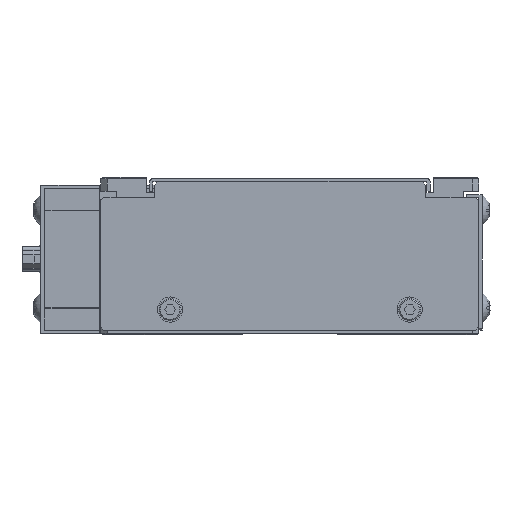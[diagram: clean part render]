
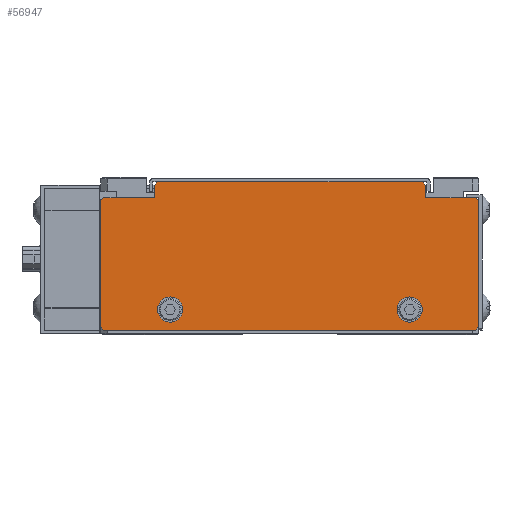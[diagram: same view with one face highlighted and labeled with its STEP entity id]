
A CAD part, front view. The second image highlights one B-rep face of the part: STEP entity #56947.
In plain terms, the highlighted planar face has unit normal (0, -1, 0).
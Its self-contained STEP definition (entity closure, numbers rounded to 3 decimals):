
#897=FACE_BOUND('',#10946,.T.);
#898=FACE_BOUND('',#10947,.T.);
#2620=CIRCLE('',#61107,4.);
#2623=CIRCLE('',#61112,4.);
#4738=PLANE('',#61176);
#7208=FACE_OUTER_BOUND('',#10945,.T.);
#10945=EDGE_LOOP('',(#40972,#40973,#40974,#40975,#40976,#40977,#40978,#40979,
#40980,#40981,#40982,#40983,#40984,#40985,#40986));
#10946=EDGE_LOOP('',(#40987));
#10947=EDGE_LOOP('',(#40988));
#15379=LINE('',#87212,#20218);
#15382=LINE('',#87217,#20221);
#15385=LINE('',#87223,#20224);
#15387=LINE('',#87227,#20226);
#15391=LINE('',#87543,#20230);
#15392=LINE('',#87547,#20231);
#15395=LINE('',#87552,#20234);
#15398=LINE('',#87562,#20237);
#15400=LINE('',#87568,#20239);
#15402=LINE('',#87593,#20241);
#15403=LINE('',#87597,#20242);
#15404=LINE('',#87598,#20243);
#15405=LINE('',#87599,#20244);
#15406=LINE('',#87600,#20245);
#15407=LINE('',#87601,#20246);
#20218=VECTOR('',#69744,4.);
#20221=VECTOR('',#69749,13.);
#20224=VECTOR('',#69754,4.);
#20226=VECTOR('',#69758,16.);
#20230=VECTOR('',#69822,1.414);
#20231=VECTOR('',#69825,1.414);
#20234=VECTOR('',#69830,1.414);
#20237=VECTOR('',#69841,1.414);
#20239=VECTOR('',#69847,40.);
#20241=VECTOR('',#69873,1.414);
#20242=VECTOR('',#69876,1.414);
#20243=VECTOR('',#69877,40.);
#20244=VECTOR('',#69878,3.);
#20245=VECTOR('',#69879,84.);
#20246=VECTOR('',#69880,118.);
#25385=VERTEX_POINT('',#87153);
#25388=VERTEX_POINT('',#87161);
#25409=VERTEX_POINT('',#87209);
#25410=VERTEX_POINT('',#87211);
#25411=VERTEX_POINT('',#87215);
#25412=VERTEX_POINT('',#87219);
#25413=VERTEX_POINT('',#87221);
#25414=VERTEX_POINT('',#87225);
#25428=VERTEX_POINT('',#87541);
#25429=VERTEX_POINT('',#87545);
#25430=VERTEX_POINT('',#87546);
#25431=VERTEX_POINT('',#87551);
#25434=VERTEX_POINT('',#87560);
#25436=VERTEX_POINT('',#87566);
#25447=VERTEX_POINT('',#87591);
#25448=VERTEX_POINT('',#87595);
#25449=VERTEX_POINT('',#87596);
#31283=EDGE_CURVE('',#25385,#25385,#2620,.T.);
#31286=EDGE_CURVE('',#25388,#25388,#2623,.T.);
#31311=EDGE_CURVE('',#25410,#25409,#15379,.T.);
#31314=EDGE_CURVE('',#25411,#25410,#15382,.T.);
#31317=EDGE_CURVE('',#25412,#25413,#15385,.T.);
#31319=EDGE_CURVE('',#25413,#25414,#15387,.T.);
#31340=EDGE_CURVE('',#25428,#25414,#15391,.T.);
#31341=EDGE_CURVE('',#25429,#25430,#15392,.T.);
#31344=EDGE_CURVE('',#25412,#25431,#15395,.T.);
#31349=EDGE_CURVE('',#25434,#25409,#15398,.T.);
#31352=EDGE_CURVE('',#25428,#25436,#15400,.T.);
#31365=EDGE_CURVE('',#25447,#25436,#15402,.T.);
#31366=EDGE_CURVE('',#25448,#25449,#15403,.T.);
#31367=EDGE_CURVE('',#25448,#25430,#15404,.T.);
#31368=EDGE_CURVE('',#25429,#25411,#15405,.T.);
#31369=EDGE_CURVE('',#25434,#25431,#15406,.T.);
#31370=EDGE_CURVE('',#25447,#25449,#15407,.T.);
#40972=ORIENTED_EDGE('',*,*,#31366,.F.);
#40973=ORIENTED_EDGE('',*,*,#31367,.T.);
#40974=ORIENTED_EDGE('',*,*,#31341,.F.);
#40975=ORIENTED_EDGE('',*,*,#31368,.T.);
#40976=ORIENTED_EDGE('',*,*,#31314,.T.);
#40977=ORIENTED_EDGE('',*,*,#31311,.T.);
#40978=ORIENTED_EDGE('',*,*,#31349,.F.);
#40979=ORIENTED_EDGE('',*,*,#31369,.T.);
#40980=ORIENTED_EDGE('',*,*,#31344,.F.);
#40981=ORIENTED_EDGE('',*,*,#31317,.T.);
#40982=ORIENTED_EDGE('',*,*,#31319,.T.);
#40983=ORIENTED_EDGE('',*,*,#31340,.F.);
#40984=ORIENTED_EDGE('',*,*,#31352,.T.);
#40985=ORIENTED_EDGE('',*,*,#31365,.F.);
#40986=ORIENTED_EDGE('',*,*,#31370,.T.);
#40987=ORIENTED_EDGE('',*,*,#31286,.T.);
#40988=ORIENTED_EDGE('',*,*,#31283,.T.);
#56947=ADVANCED_FACE('',(#7208,#897,#898),#4738,.T.);
#61107=AXIS2_PLACEMENT_3D('',#87154,#69695,#69696);
#61112=AXIS2_PLACEMENT_3D('',#87162,#69705,#69706);
#61176=AXIS2_PLACEMENT_3D('',#87594,#69874,#69875);
#69695=DIRECTION('center_axis',(0.,1.,0.));
#69696=DIRECTION('ref_axis',(-1.,0.,0.));
#69705=DIRECTION('center_axis',(0.,1.,0.));
#69706=DIRECTION('ref_axis',(-1.,0.,0.));
#69744=DIRECTION('',(0.,0.,1.));
#69749=DIRECTION('',(-1.,0.,0.));
#69754=DIRECTION('',(0.,0.,-1.));
#69758=DIRECTION('',(-1.,0.,0.));
#69822=DIRECTION('',(0.707,0.,0.707));
#69825=DIRECTION('',(0.707,0.,-0.707));
#69830=DIRECTION('',(0.707,0.,0.707));
#69841=DIRECTION('',(0.707,0.,-0.707));
#69847=DIRECTION('',(0.,0.,-1.));
#69873=DIRECTION('',(-0.707,0.,0.707));
#69874=DIRECTION('center_axis',(0.,-1.,0.));
#69875=DIRECTION('ref_axis',(0.,0.,1.));
#69876=DIRECTION('',(-0.707,0.,-0.707));
#69877=DIRECTION('',(0.,0.,1.));
#69878=DIRECTION('',(-1.,0.,0.));
#69879=DIRECTION('',(-1.,0.,0.));
#69880=DIRECTION('',(1.,0.,0.));
#87153=CARTESIAN_POINT('',(-42.,-385.,8.));
#87154=CARTESIAN_POINT('Origin',(-38.,-385.,8.));
#87161=CARTESIAN_POINT('',(34.,-385.,8.));
#87162=CARTESIAN_POINT('Origin',(38.,-385.,8.));
#87209=CARTESIAN_POINT('',(43.,-385.,47.5));
#87211=CARTESIAN_POINT('',(43.,-385.,43.5));
#87212=CARTESIAN_POINT('',(43.,-385.,36.75));
#87215=CARTESIAN_POINT('',(56.,-385.,43.5));
#87217=CARTESIAN_POINT('',(26.5,-385.,43.5));
#87219=CARTESIAN_POINT('',(-43.,-385.,47.5));
#87221=CARTESIAN_POINT('',(-43.,-385.,43.5));
#87223=CARTESIAN_POINT('',(-43.,-385.,34.25));
#87225=CARTESIAN_POINT('',(-59.,-385.,43.5));
#87227=CARTESIAN_POINT('',(-26.5,-385.,43.5));
#87541=CARTESIAN_POINT('',(-60.,-385.,42.5));
#87543=CARTESIAN_POINT('',(-49.125,-385.,53.375));
#87545=CARTESIAN_POINT('',(59.,-385.,43.5));
#87546=CARTESIAN_POINT('',(60.,-385.,42.5));
#87547=CARTESIAN_POINT('',(49.125,-385.,53.375));
#87551=CARTESIAN_POINT('',(-42.,-385.,48.5));
#87552=CARTESIAN_POINT('',(-37.625,-385.,52.875));
#87560=CARTESIAN_POINT('',(42.,-385.,48.5));
#87562=CARTESIAN_POINT('',(37.625,-385.,52.875));
#87566=CARTESIAN_POINT('',(-60.,-385.,2.5));
#87568=CARTESIAN_POINT('',(-60.,-385.,48.5));
#87591=CARTESIAN_POINT('',(-59.,-385.,1.5));
#87593=CARTESIAN_POINT('',(-50.375,-385.,-7.125));
#87594=CARTESIAN_POINT('Origin',(0.,-385.,25.));
#87595=CARTESIAN_POINT('',(60.,-385.,2.5));
#87596=CARTESIAN_POINT('',(59.,-385.,1.5));
#87597=CARTESIAN_POINT('',(50.375,-385.,-7.125));
#87598=CARTESIAN_POINT('',(60.,-385.,1.5));
#87599=CARTESIAN_POINT('',(26.5,-385.,43.5));
#87600=CARTESIAN_POINT('',(60.,-385.,48.5));
#87601=CARTESIAN_POINT('',(-60.,-385.,1.5));
